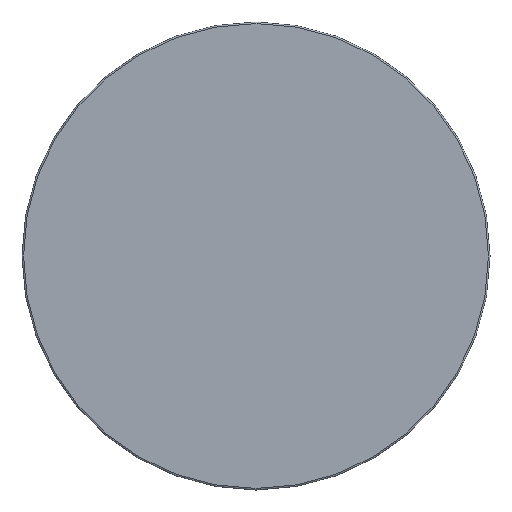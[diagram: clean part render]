
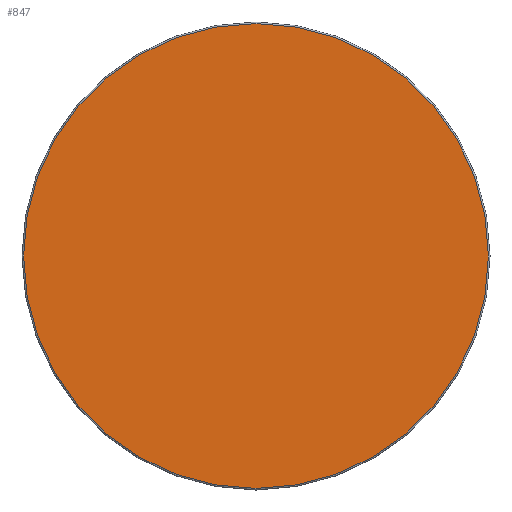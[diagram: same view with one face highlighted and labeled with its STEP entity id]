
A CAD part, left-side view. The second image highlights one B-rep face of the part: STEP entity #847.
In plain terms, the highlighted planar face has unit normal (-1, 0, 0).
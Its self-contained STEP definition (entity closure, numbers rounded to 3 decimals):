
#824=CARTESIAN_POINT('',(0.,149.0,0.0));
#825=VERTEX_POINT('',#824);
#826=CARTESIAN_POINT('',(0.,0.0,0.0));
#827=DIRECTION('',(1.0,0.0,0.0));
#828=DIRECTION('',(0.0,-1.0,0.0));
#829=AXIS2_PLACEMENT_3D('',#826,#827,#828);
#830=CIRCLE('',#829,149.0);
#831=EDGE_CURVE('',#825,#825,#830,.T.);
#839=CARTESIAN_POINT('',(0.,132.218,0.));
#840=DIRECTION('',(-1.0,0.0,0.0));
#841=DIRECTION('',(0.0,0.0,1.0));
#842=AXIS2_PLACEMENT_3D('',#839,#840,#841);
#843=PLANE('',#842);
#844=ORIENTED_EDGE('',*,*,#831,.F.);
#845=EDGE_LOOP('',(#844));
#846=FACE_OUTER_BOUND('',#845,.T.);
#847=ADVANCED_FACE('',(#846),#843,.T.);
